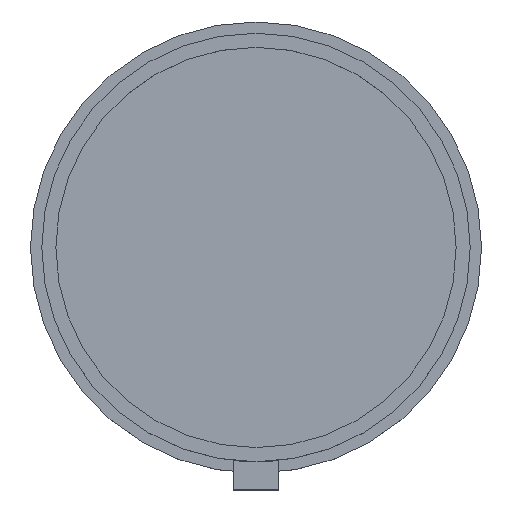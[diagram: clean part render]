
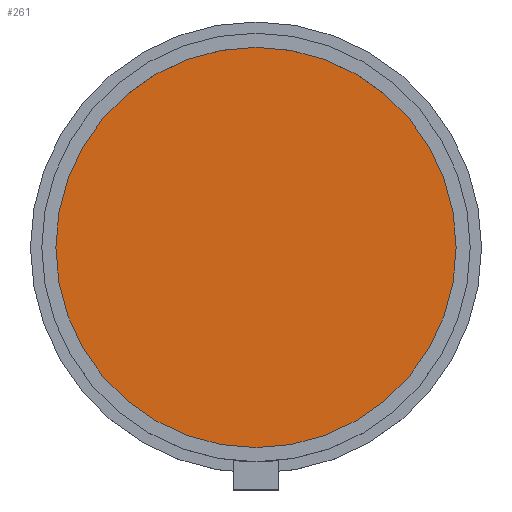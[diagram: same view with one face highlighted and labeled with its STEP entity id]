
A CAD part, top view. The second image highlights one B-rep face of the part: STEP entity #261.
In plain terms, the highlighted planar face has unit normal (0, 0, 1).
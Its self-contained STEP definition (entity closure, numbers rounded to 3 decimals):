
#242 = VERTEX_POINT('',#243);
#243 = CARTESIAN_POINT('',(17.75,0.,6.95));
#249 = EDGE_CURVE('',#242,#242,#250,.T.);
#250 = CIRCLE('',#251,17.75);
#251 = AXIS2_PLACEMENT_3D('',#252,#253,#254);
#252 = CARTESIAN_POINT('',(0.,0.,6.95));
#253 = DIRECTION('',(0.,0.,1.));
#254 = DIRECTION('',(1.,0.,-0.));
#261 = ADVANCED_FACE('',(#262),#265,.T.);
#262 = FACE_BOUND('',#263,.T.);
#263 = EDGE_LOOP('',(#264));
#264 = ORIENTED_EDGE('',*,*,#249,.T.);
#265 = PLANE('',#266);
#266 = AXIS2_PLACEMENT_3D('',#267,#268,#269);
#267 = CARTESIAN_POINT('',(0.,0.,6.95));
#268 = DIRECTION('',(0.,0.,1.));
#269 = DIRECTION('',(1.,0.,-0.));
